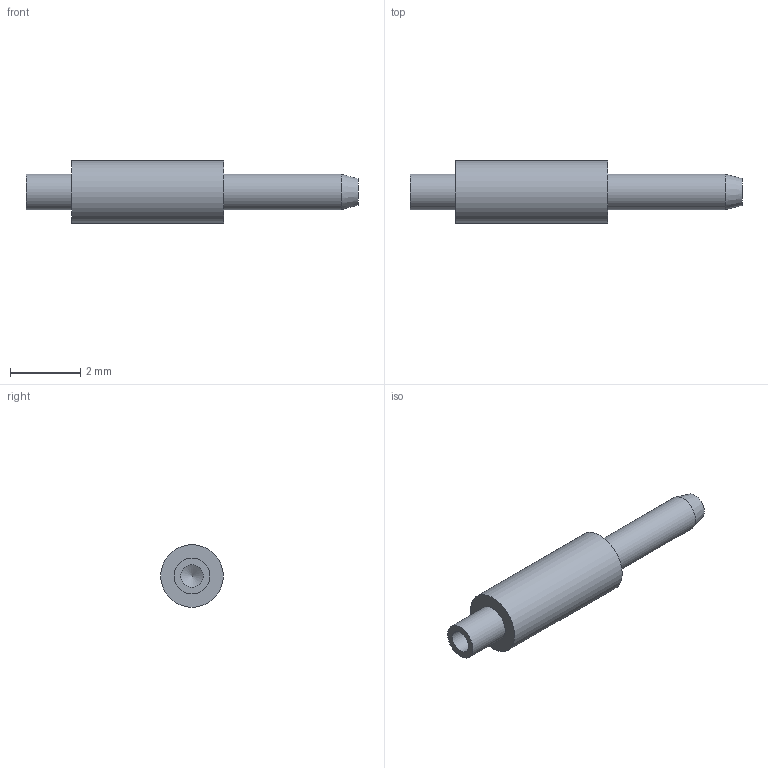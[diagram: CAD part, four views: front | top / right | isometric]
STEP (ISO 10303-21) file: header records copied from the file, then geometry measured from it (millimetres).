
FILE_DESCRIPTION(/* description */ (''),/* implementation_level */ '2;1');
FILE_NAME(/* name */ 'Z:\STEP folder\460262701.ipt.stp',/* time_stamp */ '2016-12-21T13:04:20+00:00',/* author */ ('Paul Karlsons'),/* organization */ (''),/* preprocessor_version */ 'ST-DEVELOPER v15.2',/* originating_system */ 'Autodesk Inventor 2014',/* authorisation */ '');
FILE_SCHEMA (('AUTOMOTIVE_DESIGN { 1 0 10303 214 3 1 1 }'));
Length unit declared in the file: millimetre
Products named in the file (1): 460262701
Bounding box: 9.42 x 1.78 x 1.78 mm (x, y, z)
Volume: 14.4 mm3; surface area: 47 mm2
Topology: 1 solids, 1 shells, 10 faces, 16 edges, 10 vertices
Faces by surface type: cylinder 4, plane 4, cone 2
Full cylindrical faces by diameter (mm): 0.635 x1, 1.016 x2, 1.778 x1
Entity records: 215 total; most frequent: DIRECTION 40, CARTESIAN_POINT 29, AXIS2_PLACEMENT_3D 20, EDGE_LOOP 18, ORIENTED_EDGE 18, FACE_BOUND 10, ADVANCED_FACE 10, CIRCLE 9
